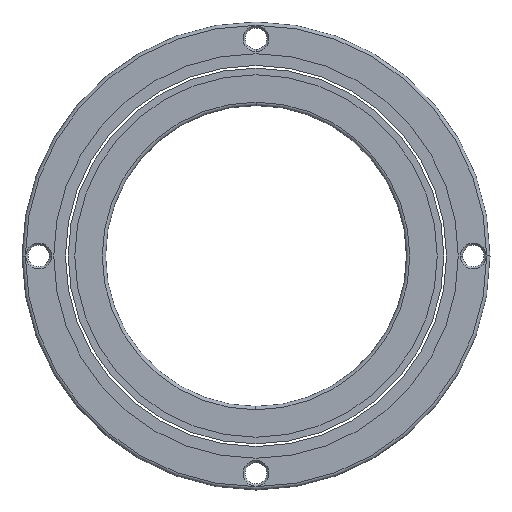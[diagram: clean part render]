
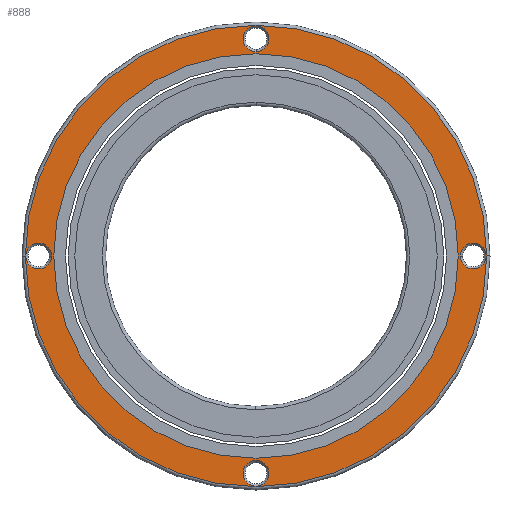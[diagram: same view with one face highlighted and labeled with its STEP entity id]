
A CAD part, front view. The second image highlights one B-rep face of the part: STEP entity #888.
In plain terms, the highlighted planar face has unit normal (0, -1, 0).
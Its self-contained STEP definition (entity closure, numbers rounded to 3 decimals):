
#89=CARTESIAN_POINT('',(0.,0.,0.));
#90=DIRECTION('',(0.,-1.,0.));
#91=DIRECTION('',(-1.,0.,0.));
#92=AXIS2_PLACEMENT_3D('',#89,#90,#91);
#94=CARTESIAN_POINT('',(0.,0.,0.));
#95=DIRECTION('',(0.,1.,0.));
#96=DIRECTION('',(-1.,0.,0.));
#97=AXIS2_PLACEMENT_3D('',#94,#95,#96);
#99=CARTESIAN_POINT('',(-32.5,0.,0.));
#100=DIRECTION('',(0.,1.,0.));
#101=DIRECTION('',(1.,0.,0.));
#102=AXIS2_PLACEMENT_3D('',#99,#100,#101);
#104=CARTESIAN_POINT('',(-32.5,0.,0.));
#105=DIRECTION('',(0.,1.,0.));
#106=DIRECTION('',(-1.,0.,0.));
#107=AXIS2_PLACEMENT_3D('',#104,#105,#106);
#109=CARTESIAN_POINT('',(0.,0.,32.5));
#110=DIRECTION('',(0.,1.,0.));
#111=DIRECTION('',(0.,0.,-1.));
#112=AXIS2_PLACEMENT_3D('',#109,#110,#111);
#114=CARTESIAN_POINT('',(0.,0.,32.5));
#115=DIRECTION('',(0.,1.,0.));
#116=DIRECTION('',(0.,0.,1.));
#117=AXIS2_PLACEMENT_3D('',#114,#115,#116);
#119=CARTESIAN_POINT('',(32.5,0.,0.));
#120=DIRECTION('',(0.,1.,0.));
#121=DIRECTION('',(-1.,0.,0.));
#122=AXIS2_PLACEMENT_3D('',#119,#120,#121);
#124=CARTESIAN_POINT('',(32.5,0.,0.));
#125=DIRECTION('',(0.,1.,0.));
#126=DIRECTION('',(1.,0.,0.));
#127=AXIS2_PLACEMENT_3D('',#124,#125,#126);
#129=CARTESIAN_POINT('',(0.,0.,-32.5));
#130=DIRECTION('',(0.,1.,0.));
#131=DIRECTION('',(0.,0.,1.));
#132=AXIS2_PLACEMENT_3D('',#129,#130,#131);
#134=CARTESIAN_POINT('',(0.,0.,-32.5));
#135=DIRECTION('',(0.,1.,0.));
#136=DIRECTION('',(0.,0.,-1.));
#137=AXIS2_PLACEMENT_3D('',#134,#135,#136);
#139=CARTESIAN_POINT('',(0.,0.,0.));
#140=DIRECTION('',(0.,1.,0.));
#141=DIRECTION('',(-1.,0.,0.));
#142=AXIS2_PLACEMENT_3D('',#139,#140,#141);
#144=CARTESIAN_POINT('',(0.,0.,0.));
#145=DIRECTION('',(0.,1.,0.));
#146=DIRECTION('',(1.,0.,0.));
#147=AXIS2_PLACEMENT_3D('',#144,#145,#146);
#676=CARTESIAN_POINT('',(-30.25,0.,0.));
#678=VERTEX_POINT('',#676);
#680=CARTESIAN_POINT('',(30.25,0.,0.));
#682=VERTEX_POINT('',#680);
#695=CARTESIAN_POINT('',(-34.5,0.,0.));
#696=CARTESIAN_POINT('',(34.5,0.,0.));
#697=VERTEX_POINT('',#695);
#698=VERTEX_POINT('',#696);
#715=CARTESIAN_POINT('',(-30.58,0.,0.));
#716=CARTESIAN_POINT('',(-34.42,0.,0.));
#717=VERTEX_POINT('',#715);
#718=VERTEX_POINT('',#716);
#719=CARTESIAN_POINT('',(0.,0.,30.58));
#720=CARTESIAN_POINT('',(0.,0.,34.42));
#721=VERTEX_POINT('',#719);
#722=VERTEX_POINT('',#720);
#723=CARTESIAN_POINT('',(30.58,0.,0.));
#724=CARTESIAN_POINT('',(34.42,0.,0.));
#725=VERTEX_POINT('',#723);
#726=VERTEX_POINT('',#724);
#727=CARTESIAN_POINT('',(0.,0.,-30.58));
#728=CARTESIAN_POINT('',(0.,0.,-34.42));
#729=VERTEX_POINT('',#727);
#730=VERTEX_POINT('',#728);
#849=CARTESIAN_POINT('',(0.,0.,0.));
#850=DIRECTION('',(0.,1.,0.));
#851=DIRECTION('',(1.,0.,0.));
#852=AXIS2_PLACEMENT_3D('',#849,#850,#851);
#853=PLANE('',#852);
#855=ORIENTED_EDGE('',*,*,#854,.T.);
#857=ORIENTED_EDGE('',*,*,#856,.T.);
#858=EDGE_LOOP('',(#855,#857));
#859=FACE_OUTER_BOUND('',#858,.F.);
#861=ORIENTED_EDGE('',*,*,#860,.F.);
#863=ORIENTED_EDGE('',*,*,#862,.F.);
#864=EDGE_LOOP('',(#861,#863));
#865=FACE_BOUND('',#864,.F.);
#867=ORIENTED_EDGE('',*,*,#866,.F.);
#869=ORIENTED_EDGE('',*,*,#868,.F.);
#870=EDGE_LOOP('',(#867,#869));
#871=FACE_BOUND('',#870,.F.);
#873=ORIENTED_EDGE('',*,*,#872,.F.);
#875=ORIENTED_EDGE('',*,*,#874,.F.);
#876=EDGE_LOOP('',(#873,#875));
#877=FACE_BOUND('',#876,.F.);
#879=ORIENTED_EDGE('',*,*,#878,.F.);
#881=ORIENTED_EDGE('',*,*,#880,.F.);
#882=EDGE_LOOP('',(#879,#881));
#883=FACE_BOUND('',#882,.F.);
#884=ORIENTED_EDGE('',*,*,#844,.T.);
#885=ORIENTED_EDGE('',*,*,#828,.F.);
#886=EDGE_LOOP('',(#884,#885));
#887=FACE_BOUND('',#886,.F.);
#93=CIRCLE('',#92,30.25);
#98=CIRCLE('',#97,30.25);
#103=CIRCLE('',#102,1.92);
#108=CIRCLE('',#107,1.92);
#113=CIRCLE('',#112,1.92);
#118=CIRCLE('',#117,1.92);
#123=CIRCLE('',#122,1.92);
#128=CIRCLE('',#127,1.92);
#133=CIRCLE('',#132,1.92);
#138=CIRCLE('',#137,1.92);
#143=CIRCLE('',#142,34.5);
#148=CIRCLE('',#147,34.5);
#828=EDGE_CURVE('',#678,#682,#98,.T.);
#844=EDGE_CURVE('',#678,#682,#93,.T.);
#854=EDGE_CURVE('',#697,#698,#143,.T.);
#856=EDGE_CURVE('',#698,#697,#148,.T.);
#860=EDGE_CURVE('',#717,#718,#103,.T.);
#862=EDGE_CURVE('',#718,#717,#108,.T.);
#866=EDGE_CURVE('',#721,#722,#113,.T.);
#868=EDGE_CURVE('',#722,#721,#118,.T.);
#872=EDGE_CURVE('',#725,#726,#123,.T.);
#874=EDGE_CURVE('',#726,#725,#128,.T.);
#878=EDGE_CURVE('',#729,#730,#133,.T.);
#880=EDGE_CURVE('',#730,#729,#138,.T.);
#888=ADVANCED_FACE('',(#859,#865,#871,#877,#883,#887),#853,.F.);
